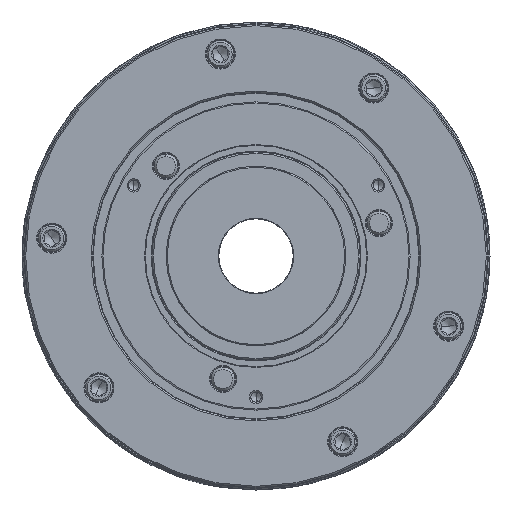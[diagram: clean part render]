
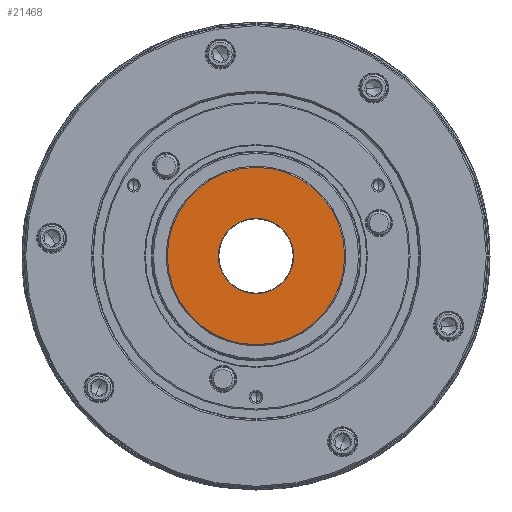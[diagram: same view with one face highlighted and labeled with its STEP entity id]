
A CAD part, left-side view. The second image highlights one B-rep face of the part: STEP entity #21468.
In plain terms, the highlighted planar face has unit normal (-1, 0, 0).
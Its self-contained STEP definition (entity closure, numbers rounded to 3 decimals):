
#167 = AXIS2_PLACEMENT_3D ( 'NONE', #32096, #36305, #49734 ) ;
#1137 = AXIS2_PLACEMENT_3D ( 'NONE', #37356, #25278, #28677 ) ;
#3450 = CARTESIAN_POINT ( 'NONE',  ( -47., 59.7, 0. ) ) ;
#7365 = CIRCLE ( 'NONE', #53883, 25.4 ) ;
#9326 = EDGE_CURVE ( 'NONE', #36147, #48681, #18998, .T. ) ;
#9860 = EDGE_CURVE ( 'NONE', #38726, #26824, #44121, .T. ) ;
#9871 = AXIS2_PLACEMENT_3D ( 'NONE', #3450, #33447, #33994 ) ;
#15672 = EDGE_CURVE ( 'NONE', #26824, #38726, #7365, .T. ) ;
#16544 = CARTESIAN_POINT ( 'NONE',  ( -47., 0., 0. ) ) ;
#17451 = PLANE ( 'NONE',  #9871 ) ;
#18998 = CIRCLE ( 'NONE', #167, 59.7 ) ;
#20759 = DIRECTION ( 'NONE',  ( -1., 0., 0. ) ) ;
#21201 = CIRCLE ( 'NONE', #52459, 59.7 ) ;
#21468 = ADVANCED_FACE ( 'NONE', ( #42674, #54958 ), #17451, .F. ) ;
#21583 = DIRECTION ( 'NONE',  ( 0., 0., 1. ) ) ;
#21910 = EDGE_LOOP ( 'NONE', ( #32175, #26397 ) ) ;
#23589 = ORIENTED_EDGE ( 'NONE', *, *, #9860, .F. ) ;
#25278 = DIRECTION ( 'NONE',  ( -1., 0., 0. ) ) ;
#26397 = ORIENTED_EDGE ( 'NONE', *, *, #9326, .T. ) ;
#26824 = VERTEX_POINT ( 'NONE', #53863 ) ;
#27639 = CARTESIAN_POINT ( 'NONE',  ( -47., 0., 0. ) ) ;
#28677 = DIRECTION ( 'NONE',  ( 0., 0., 1. ) ) ;
#32096 = CARTESIAN_POINT ( 'NONE',  ( -47., 0., 0. ) ) ;
#32175 = ORIENTED_EDGE ( 'NONE', *, *, #48078, .T. ) ;
#33447 = DIRECTION ( 'NONE',  ( 1., 0., 0. ) ) ;
#33994 = DIRECTION ( 'NONE',  ( 0., 0., -1. ) ) ;
#35498 = DIRECTION ( 'NONE',  ( -1., 0., 0. ) ) ;
#36147 = VERTEX_POINT ( 'NONE', #45895 ) ;
#36305 = DIRECTION ( 'NONE',  ( -1., 0., 0. ) ) ;
#37356 = CARTESIAN_POINT ( 'NONE',  ( -47., 0., 0. ) ) ;
#38726 = VERTEX_POINT ( 'NONE', #50467 ) ;
#42201 = CARTESIAN_POINT ( 'NONE',  ( -47., 0., -59.7 ) ) ;
#42674 = FACE_BOUND ( 'NONE', #50666, .T. ) ;
#44121 = CIRCLE ( 'NONE', #1137, 25.4 ) ;
#44735 = DIRECTION ( 'NONE',  ( 0., 0., 1. ) ) ;
#45895 = CARTESIAN_POINT ( 'NONE',  ( -47., 0., 59.7 ) ) ;
#47599 = ORIENTED_EDGE ( 'NONE', *, *, #15672, .F. ) ;
#48078 = EDGE_CURVE ( 'NONE', #48681, #36147, #21201, .T. ) ;
#48681 = VERTEX_POINT ( 'NONE', #42201 ) ;
#49734 = DIRECTION ( 'NONE',  ( 0., 0., 1. ) ) ;
#50467 = CARTESIAN_POINT ( 'NONE',  ( -47., 0., -25.4 ) ) ;
#50666 = EDGE_LOOP ( 'NONE', ( #47599, #23589 ) ) ;
#52459 = AXIS2_PLACEMENT_3D ( 'NONE', #16544, #20759, #21583 ) ;
#53863 = CARTESIAN_POINT ( 'NONE',  ( -47., 0., 25.4 ) ) ;
#53883 = AXIS2_PLACEMENT_3D ( 'NONE', #27639, #35498, #44735 ) ;
#54958 = FACE_OUTER_BOUND ( 'NONE', #21910, .T. ) ;
